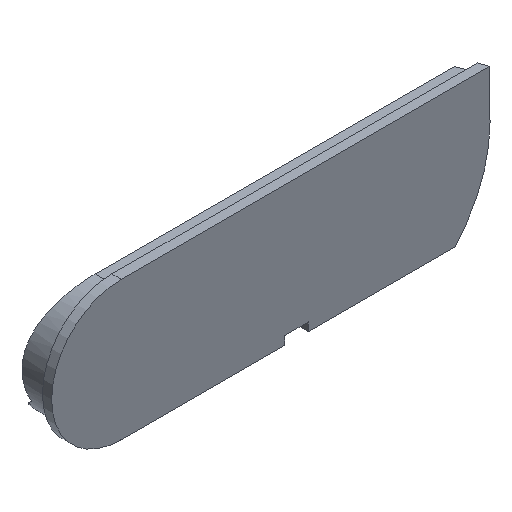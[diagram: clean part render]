
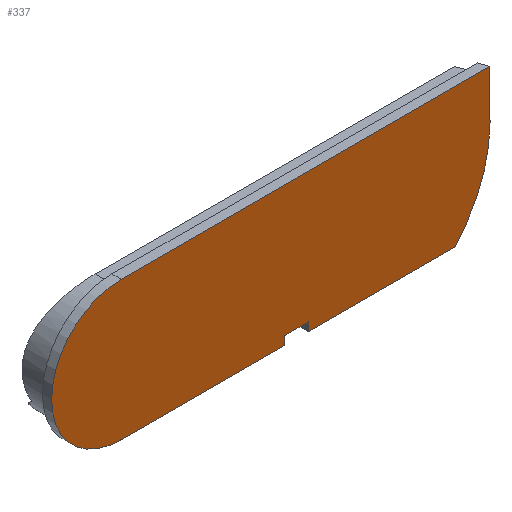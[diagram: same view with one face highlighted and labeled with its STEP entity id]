
A CAD part, isometric view. The second image highlights one B-rep face of the part: STEP entity #337.
In plain terms, the highlighted planar face has unit normal (0, -1, 0).
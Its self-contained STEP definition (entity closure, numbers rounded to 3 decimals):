
#18=CIRCLE('',#370,9.05);
#19=CIRCLE('',#373,17.296);
#32=PLANE('',#378);
#50=FACE_OUTER_BOUND('',#68,.T.);
#68=EDGE_LOOP('',(#305,#306,#307,#308,#309,#310,#311,#312,#313));
#80=LINE('',#534,#112);
#83=LINE('',#543,#115);
#93=LINE('',#591,#125);
#96=LINE('',#596,#128);
#99=LINE('',#603,#131);
#103=LINE('',#614,#135);
#105=LINE('',#618,#137);
#112=VECTOR('',#397,10.);
#115=VECTOR('',#406,10.);
#125=VECTOR('',#432,10.);
#128=VECTOR('',#437,10.);
#131=VECTOR('',#446,10.);
#135=VECTOR('',#458,10.);
#137=VECTOR('',#464,10.);
#153=VERTEX_POINT('',#531);
#154=VERTEX_POINT('',#533);
#156=VERTEX_POINT('',#541);
#157=VERTEX_POINT('',#542);
#166=VERTEX_POINT('',#589);
#167=VERTEX_POINT('',#590);
#168=VERTEX_POINT('',#595);
#169=VERTEX_POINT('',#599);
#170=VERTEX_POINT('',#605);
#186=EDGE_CURVE('',#154,#153,#80,.T.);
#190=EDGE_CURVE('',#156,#157,#83,.T.);
#204=EDGE_CURVE('',#166,#167,#93,.T.);
#207=EDGE_CURVE('',#168,#166,#96,.T.);
#209=EDGE_CURVE('',#169,#168,#18,.T.);
#211=EDGE_CURVE('',#153,#169,#99,.T.);
#212=EDGE_CURVE('',#170,#154,#19,.T.);
#217=EDGE_CURVE('',#157,#170,#103,.T.);
#219=EDGE_CURVE('',#167,#156,#105,.T.);
#305=ORIENTED_EDGE('',*,*,#190,.T.);
#306=ORIENTED_EDGE('',*,*,#217,.T.);
#307=ORIENTED_EDGE('',*,*,#212,.T.);
#308=ORIENTED_EDGE('',*,*,#186,.T.);
#309=ORIENTED_EDGE('',*,*,#211,.T.);
#310=ORIENTED_EDGE('',*,*,#209,.T.);
#311=ORIENTED_EDGE('',*,*,#207,.T.);
#312=ORIENTED_EDGE('',*,*,#204,.T.);
#313=ORIENTED_EDGE('',*,*,#219,.T.);
#337=ADVANCED_FACE('',(#50),#32,.F.);
#370=AXIS2_PLACEMENT_3D('',#600,#441,#442);
#373=AXIS2_PLACEMENT_3D('',#606,#449,#450);
#378=AXIS2_PLACEMENT_3D('',#619,#465,#466);
#397=DIRECTION('',(0.,0.,1.));
#406=DIRECTION('',(0.,0.,-1.));
#432=DIRECTION('',(0.,0.,1.));
#437=DIRECTION('',(1.,0.,0.));
#441=DIRECTION('center_axis',(0.,-1.,0.));
#442=DIRECTION('ref_axis',(0.,0.,1.));
#446=DIRECTION('',(-1.,0.,0.));
#449=DIRECTION('center_axis',(0.,-1.,0.));
#450=DIRECTION('ref_axis',(1.,0.,0.));
#458=DIRECTION('',(1.,0.,0.));
#464=DIRECTION('',(1.,0.,0.));
#465=DIRECTION('center_axis',(0.,1.,0.));
#466=DIRECTION('ref_axis',(1.,0.,0.));
#531=CARTESIAN_POINT('',(48.054,0.,9.05));
#533=CARTESIAN_POINT('',(48.054,0.,2.7));
#534=CARTESIAN_POINT('',(48.054,0.,3.975));
#541=CARTESIAN_POINT('',(24.386,0.,-7.95));
#542=CARTESIAN_POINT('',(24.386,0.,-9.05));
#543=CARTESIAN_POINT('',(24.386,0.,-4.525));
#589=CARTESIAN_POINT('',(21.286,0.,-9.05));
#590=CARTESIAN_POINT('',(21.286,0.,-7.95));
#591=CARTESIAN_POINT('',(21.286,0.,-3.975));
#595=CARTESIAN_POINT('',(0.,0.,-9.05));
#596=CARTESIAN_POINT('',(0.,0.,-9.05));
#599=CARTESIAN_POINT('',(0.,0.,9.05));
#600=CARTESIAN_POINT('Origin',(0.,0.,0.));
#603=CARTESIAN_POINT('',(50.25,0.,9.05));
#605=CARTESIAN_POINT('',(43.45,0.,-9.05));
#606=CARTESIAN_POINT('Origin',(30.757,0.,2.7));
#614=CARTESIAN_POINT('',(0.,0.,-9.05));
#618=CARTESIAN_POINT('',(22.493,0.,-7.95));
#619=CARTESIAN_POINT('Origin',(20.6,0.,0.));
